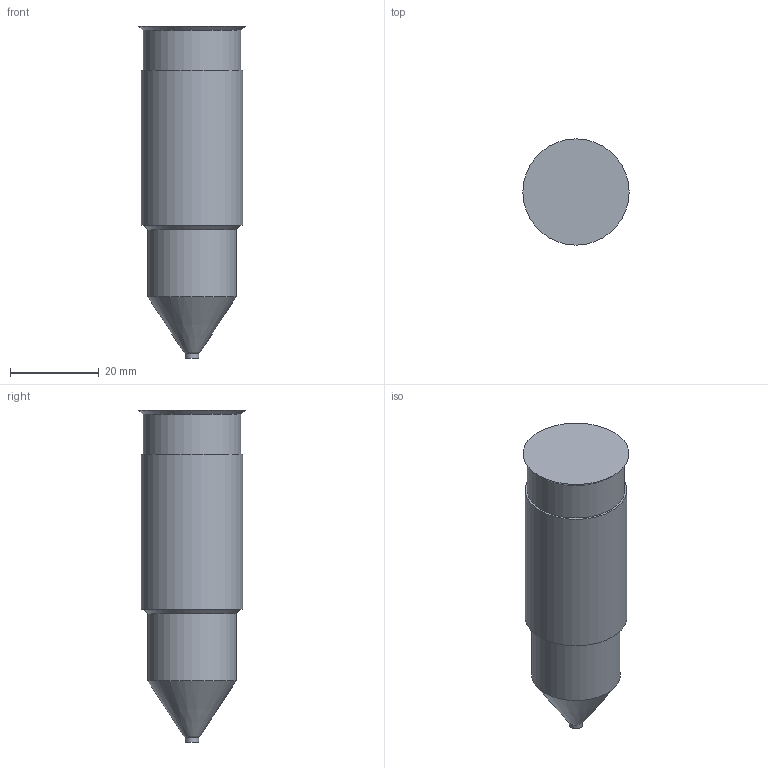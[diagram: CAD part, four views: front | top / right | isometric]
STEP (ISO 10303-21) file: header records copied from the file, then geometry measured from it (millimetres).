
FILE_DESCRIPTION(('STEP AP214'),'1');
FILE_NAME('SEDE IPM150-A.stp','2018-06-12T13:11:20',(' '),(' '),'Spatial InterOp 3D',' ',' ');
FILE_SCHEMA(('AUTOMOTIVE_DESIGN { 1 0 10303 214 1 1 1 1 }'));
Length unit declared in the file: millimetre
Products named in the file (1): 1
Bounding box: 24 x 24 x 75 mm (x, y, z)
Volume: 25108 mm3; surface area: 5402 mm2
Topology: 1 solids, 1 shells, 11 faces, 17 edges, 10 vertices
Faces by surface type: cylinder 4, plane 4, cone 2, revolution 1
Full cylindrical faces by diameter (mm): 3 x1, 20 x1, 22 x1, 23 x1
Entity records: 325 total; most frequent: DIRECTION 43, CARTESIAN_POINT 39, AXIS2_PLACEMENT_3D 21, EDGE_LOOP 20, ORIENTED_EDGE 20, FACE_OUTER_BOUND 16, STYLED_ITEM 11, PRESENTATION_STYLE_ASSIGNMENT 11
